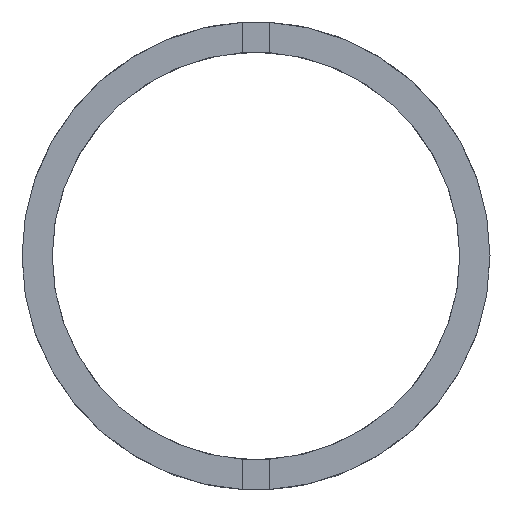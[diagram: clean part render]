
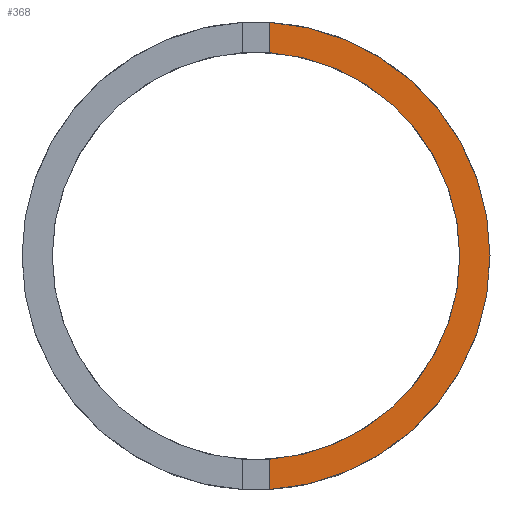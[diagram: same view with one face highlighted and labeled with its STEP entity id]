
A CAD part, top view. The second image highlights one B-rep face of the part: STEP entity #368.
In plain terms, the highlighted planar face has unit normal (0, 0, 1).
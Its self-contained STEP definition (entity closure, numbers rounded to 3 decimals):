
#3 = EDGE_CURVE ( 'NONE', #385, #15, #177, .T. ) ;
#4 = DIRECTION ( 'NONE',  ( 1., 0., 0. ) ) ;
#7 = CARTESIAN_POINT ( 'NONE',  ( 0., 0., 4. ) ) ;
#15 = VERTEX_POINT ( 'NONE', #215 ) ;
#23 = CIRCLE ( 'NONE', #309, 22.423 ) ;
#30 = VECTOR ( 'NONE', #413, 1000. ) ;
#31 = CARTESIAN_POINT ( 'NONE',  ( 0., 0., 4. ) ) ;
#34 = DIRECTION ( 'NONE',  ( 0., 0., 1. ) ) ;
#37 = DIRECTION ( 'NONE',  ( 0., 0., 1. ) ) ;
#47 = FACE_OUTER_BOUND ( 'NONE', #214, .T. ) ;
#49 = ORIENTED_EDGE ( 'NONE', *, *, #152, .F. ) ;
#53 = ORIENTED_EDGE ( 'NONE', *, *, #3, .F. ) ;
#59 = CARTESIAN_POINT ( 'NONE',  ( 25.75, 0., 4. ) ) ;
#80 = CARTESIAN_POINT ( 'NONE',  ( 22.423, 0., 4. ) ) ;
#81 = ORIENTED_EDGE ( 'NONE', *, *, #454, .T. ) ;
#93 = LINE ( 'NONE', #101, #30 ) ;
#97 = AXIS2_PLACEMENT_3D ( 'NONE', #184, #319, #501 ) ;
#99 = DIRECTION ( 'NONE',  ( 0., 1., 0. ) ) ;
#101 = CARTESIAN_POINT ( 'NONE',  ( 1.5, -29.161, 4. ) ) ;
#106 = EDGE_CURVE ( 'NONE', #161, #251, #93, .T. ) ;
#114 = DIRECTION ( 'NONE',  ( 0., 0., 1. ) ) ;
#115 = ORIENTED_EDGE ( 'NONE', *, *, #383, .F. ) ;
#118 = VERTEX_POINT ( 'NONE', #59 ) ;
#122 = DIRECTION ( 'NONE',  ( 1., 0., 0. ) ) ;
#146 = CARTESIAN_POINT ( 'NONE',  ( 1.5, -22.373, 4. ) ) ;
#152 = EDGE_CURVE ( 'NONE', #363, #385, #223, .T. ) ;
#160 = CARTESIAN_POINT ( 'NONE',  ( 0., 0., 4. ) ) ;
#161 = VERTEX_POINT ( 'NONE', #452 ) ;
#164 = DIRECTION ( 'NONE',  ( 0., 0., 1. ) ) ;
#172 = CIRCLE ( 'NONE', #97, 25.75 ) ;
#177 = LINE ( 'NONE', #485, #288 ) ;
#181 = AXIS2_PLACEMENT_3D ( 'NONE', #160, #37, #122 ) ;
#184 = CARTESIAN_POINT ( 'NONE',  ( 0., 0., 4. ) ) ;
#194 = DIRECTION ( 'NONE',  ( 1., 0., 0. ) ) ;
#198 = DIRECTION ( 'NONE',  ( 1., 0., 0. ) ) ;
#200 = EDGE_CURVE ( 'NONE', #161, #118, #172, .T. ) ;
#204 = PLANE ( 'NONE',  #181 ) ;
#207 = CARTESIAN_POINT ( 'NONE',  ( 0., 0., 4. ) ) ;
#211 = ORIENTED_EDGE ( 'NONE', *, *, #200, .T. ) ;
#214 = EDGE_LOOP ( 'NONE', ( #461, #211, #81, #53, #49, #115 ) ) ;
#215 = CARTESIAN_POINT ( 'NONE',  ( 1.5, 25.706, 4. ) ) ;
#223 = CIRCLE ( 'NONE', #275, 22.423 ) ;
#251 = VERTEX_POINT ( 'NONE', #146 ) ;
#275 = AXIS2_PLACEMENT_3D ( 'NONE', #31, #114, #194 ) ;
#278 = CARTESIAN_POINT ( 'NONE',  ( 1.5, 22.373, 4. ) ) ;
#288 = VECTOR ( 'NONE', #99, 1000. ) ;
#309 = AXIS2_PLACEMENT_3D ( 'NONE', #7, #164, #4 ) ;
#311 = AXIS2_PLACEMENT_3D ( 'NONE', #207, #34, #198 ) ;
#319 = DIRECTION ( 'NONE',  ( 0., 0., 1. ) ) ;
#363 = VERTEX_POINT ( 'NONE', #80 ) ;
#368 = ADVANCED_FACE ( 'NONE', ( #47 ), #204, .T. ) ;
#375 = CIRCLE ( 'NONE', #311, 25.75 ) ;
#383 = EDGE_CURVE ( 'NONE', #251, #363, #23, .T. ) ;
#385 = VERTEX_POINT ( 'NONE', #278 ) ;
#413 = DIRECTION ( 'NONE',  ( 0., 1., 0. ) ) ;
#452 = CARTESIAN_POINT ( 'NONE',  ( 1.5, -25.706, 4. ) ) ;
#454 = EDGE_CURVE ( 'NONE', #118, #15, #375, .T. ) ;
#461 = ORIENTED_EDGE ( 'NONE', *, *, #106, .F. ) ;
#485 = CARTESIAN_POINT ( 'NONE',  ( 1.5, -29.161, 4. ) ) ;
#501 = DIRECTION ( 'NONE',  ( 1., 0., 0. ) ) ;
